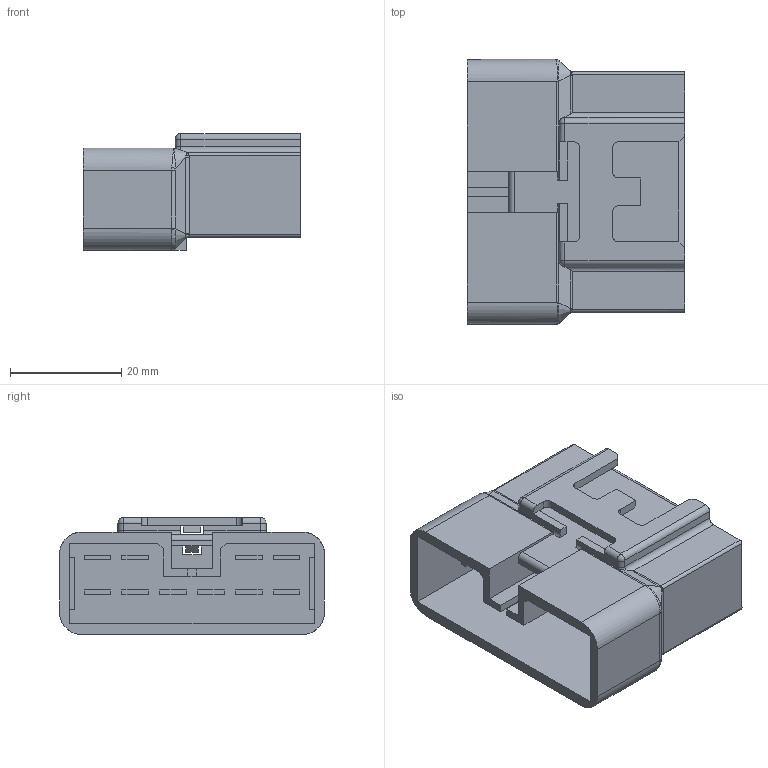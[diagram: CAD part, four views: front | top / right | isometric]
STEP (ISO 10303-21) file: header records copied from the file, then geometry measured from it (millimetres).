
FILE_DESCRIPTION(('CATIA V5 STEP Exchange'),'2;1');
FILE_NAME('N:\C-DAM_MyDesk\ENV\900093\6098-0154.stp','2013-07-09T00:25:50+00:00',('none'),('none'),'CATIA Version 5 Release 20 SP 4 (IN-10)','CATIA V5 STEP AP203','none');
FILE_SCHEMA(('CONFIG_CONTROL_DESIGN'));
Length unit declared in the file: millimetre
Products named in the file (1): 6098-0154
Bounding box: 39 x 47.6 x 21 mm (x, y, z)
Volume: 18305.8 mm3; surface area: 10639.3 mm2
Topology: 1 solids, 1 shells, 267 faces, 691 edges, 442 vertices
Faces by surface type: plane 199, bspline 34, cylinder 30, torus 2, sphere 2
Entity records: 9263 total; most frequent: CARTESIAN_POINT 3227, ORIENTED_EDGE 1378, DIRECTION 955, EDGE_CURVE 689, VECTOR 538, LINE 538, VERTEX_POINT 442, EDGE_LOOP 289
